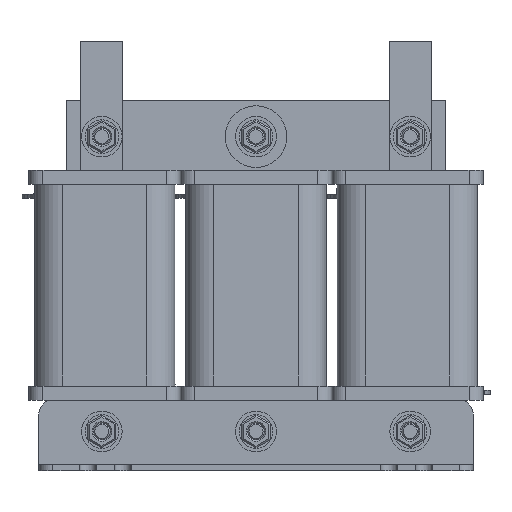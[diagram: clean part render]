
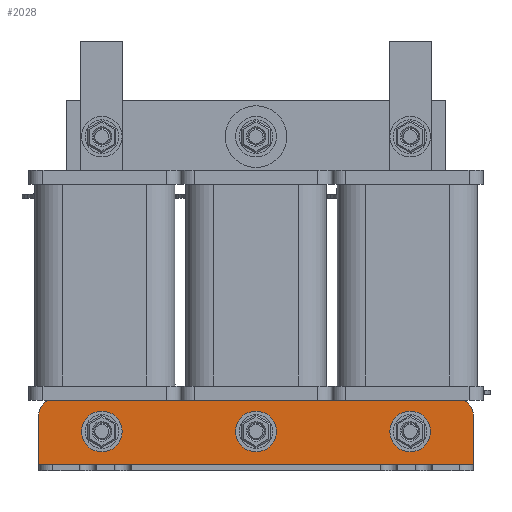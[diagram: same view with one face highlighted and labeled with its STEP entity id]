
A CAD part, front view. The second image highlights one B-rep face of the part: STEP entity #2028.
In plain terms, the highlighted planar face has unit normal (0, -1, 0) as drawn and (0, 1, 0) by its records, which use the part's own axes.
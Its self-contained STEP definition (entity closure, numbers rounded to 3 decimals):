
#2028=ADVANCED_FACE('',(#2268,#2270,#2272,#2274),#2276,.T.);
#2268=FACE_BOUND('',#2269,.T.);
#2269=EDGE_LOOP('',(#3519,#3520,#3521,#3522,#3523,#3524));
#2270=FACE_BOUND('',#2271,.T.);
#2271=EDGE_LOOP('',(#3525));
#2272=FACE_BOUND('',#2273,.T.);
#2273=EDGE_LOOP('',(#3526));
#2274=FACE_BOUND('',#2275,.T.);
#2275=EDGE_LOOP('',(#3527));
#2276=PLANE('',#2277);
#2277=AXIS2_PLACEMENT_3D('',#2278,#2279,#2280);
#2278=CARTESIAN_POINT('',(77.5,-14.3,2.2));
#2279=DIRECTION('',(0.,1.,-0.));
#2280=DIRECTION('',(-1.,0.,0.));
#3519=ORIENTED_EDGE('',*,*,#4255,.F.);
#3520=ORIENTED_EDGE('',*,*,#4256,.F.);
#3521=ORIENTED_EDGE('',*,*,#4257,.T.);
#3522=ORIENTED_EDGE('',*,*,#4258,.T.);
#3523=ORIENTED_EDGE('',*,*,#4259,.F.);
#3524=ORIENTED_EDGE('',*,*,#4260,.F.);
#3525=ORIENTED_EDGE('',*,*,#4261,.T.);
#3526=ORIENTED_EDGE('',*,*,#4262,.T.);
#3527=ORIENTED_EDGE('',*,*,#4263,.T.);
#4255=EDGE_CURVE('',#4646,#4647,#4648,.F.);
#4256=EDGE_CURVE('',#4649,#4646,#4650,.T.);
#4257=EDGE_CURVE('',#4649,#4651,#4652,.T.);
#4258=EDGE_CURVE('',#4651,#4653,#4654,.T.);
#4259=EDGE_CURVE('',#4655,#4653,#4656,.F.);
#4260=EDGE_CURVE('',#4647,#4655,#4657,.T.);
#4261=EDGE_CURVE('',#4658,#4658,#4659,.F.);
#4262=EDGE_CURVE('',#4660,#4660,#4661,.F.);
#4263=EDGE_CURVE('',#4662,#4662,#4663,.F.);
#4646=VERTEX_POINT('',#5324);
#4647=VERTEX_POINT('',#5325);
#4648=CIRCLE('',#5326,5.);
#4649=VERTEX_POINT('',#5330);
#4650=LINE('',#5331,#5332);
#4651=VERTEX_POINT('',#5334);
#4652=LINE('',#5335,#5336);
#4653=VERTEX_POINT('',#5338);
#4654=LINE('',#5339,#5340);
#4655=VERTEX_POINT('',#5342);
#4656=CIRCLE('',#5343,5.);
#4657=LINE('',#5347,#5348);
#4658=VERTEX_POINT('',#5350);
#4659=CIRCLE('',#5351,3.);
#4660=VERTEX_POINT('',#5355);
#4661=CIRCLE('',#5356,3.);
#4662=VERTEX_POINT('',#5360);
#4663=CIRCLE('',#5361,3.);
#5324=CARTESIAN_POINT('',(77.5,-14.3,20.2));
#5325=CARTESIAN_POINT('',(72.5,-14.3,25.2));
#5326=AXIS2_PLACEMENT_3D('',#5327,#5328,#5329);
#5327=CARTESIAN_POINT('',(72.5,-14.3,20.2));
#5328=DIRECTION('',(0.,1.,-0.));
#5329=DIRECTION('',(0.,0.,1.));
#5330=CARTESIAN_POINT('',(77.5,-14.3,2.2));
#5331=CARTESIAN_POINT('',(77.5,-14.3,2.2));
#5332=VECTOR('',#5333,1.);
#5333=DIRECTION('',(0.,0.,1.));
#5334=CARTESIAN_POINT('',(-77.5,-14.3,2.2));
#5335=CARTESIAN_POINT('',(77.5,-14.3,2.2));
#5336=VECTOR('',#5337,1.);
#5337=DIRECTION('',(-1.,0.,0.));
#5338=CARTESIAN_POINT('',(-77.5,-14.3,20.2));
#5339=CARTESIAN_POINT('',(-77.5,-14.3,2.2));
#5340=VECTOR('',#5341,1.);
#5341=DIRECTION('',(0.,0.,1.));
#5342=CARTESIAN_POINT('',(-72.5,-14.3,25.2));
#5343=AXIS2_PLACEMENT_3D('',#5344,#5345,#5346);
#5344=CARTESIAN_POINT('',(-72.5,-14.3,20.2));
#5345=DIRECTION('',(0.,1.,-0.));
#5346=DIRECTION('',(-1.,0.,0.));
#5347=CARTESIAN_POINT('',(72.5,-14.3,25.2));
#5348=VECTOR('',#5349,1.);
#5349=DIRECTION('',(-1.,0.,0.));
#5350=CARTESIAN_POINT('',(52.,-14.3,14.));
#5351=AXIS2_PLACEMENT_3D('',#5352,#5353,#5354);
#5352=CARTESIAN_POINT('',(55.,-14.3,14.));
#5353=DIRECTION('',(0.,1.,-0.));
#5354=DIRECTION('',(-1.,0.,0.));
#5355=CARTESIAN_POINT('',(-3.,-14.3,14.));
#5356=AXIS2_PLACEMENT_3D('',#5357,#5358,#5359);
#5357=CARTESIAN_POINT('',(0.,-14.3,14.));
#5358=DIRECTION('',(0.,1.,-0.));
#5359=DIRECTION('',(-1.,0.,0.));
#5360=CARTESIAN_POINT('',(-58.,-14.3,14.));
#5361=AXIS2_PLACEMENT_3D('',#5362,#5363,#5364);
#5362=CARTESIAN_POINT('',(-55.,-14.3,14.));
#5363=DIRECTION('',(0.,1.,-0.));
#5364=DIRECTION('',(-1.,0.,0.));
